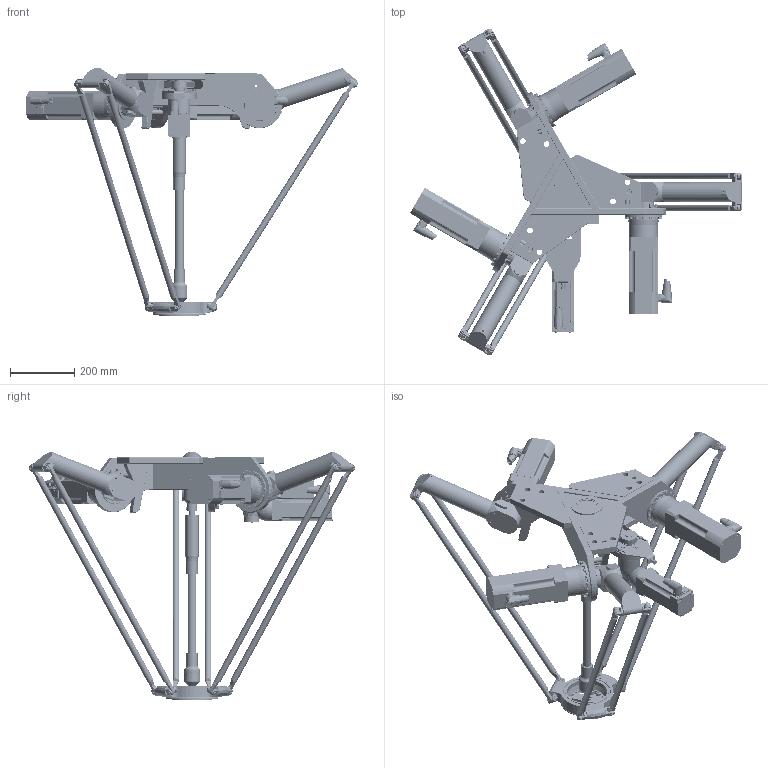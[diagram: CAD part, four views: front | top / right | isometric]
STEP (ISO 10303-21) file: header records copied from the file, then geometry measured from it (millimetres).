
FILE_DESCRIPTION (( 'STEP AP214' ), '1' );
FILE_NAME ('DR4090C-AX006.STEP', '2020-04-07T07:25:11', ( '' ), ( '' ), 'SwSTEP 2.0', 'SolidWorks 2017', '' );
FILE_SCHEMA (( 'AUTOMOTIVE_DESIGN' ));
Length unit declared in the file: millimetre
Products named in the file (4): DR4090C-AX006; DR4090C-AX006_3D_ohne_Motor; 8LSA35_DB060S200_3_5; 8LSAA2_D9045S200_3_1
Assembly tree (5 placements, depth 2):
  DR4090C-AX006
    DR4090C-AX006_3D_ohne_Motor
    8LSAA2_D9045S200_3_1
    8LSA35_DB060S200_3_5  x3
Bounding box: 1033.96 x 1018.15 x 772.29 mm (x, y, z)
Volume: 20661028 mm3; surface area: 2362783.5 mm2
Topology: 32 solids, 64 shells, 4970 faces, 11733 edges, 7485 vertices
Faces by surface type: plane 2695, cylinder 1439, cone 557, bspline 276, torus 3
Full cylindrical faces by diameter (mm): 1 x16, 3 x2, 3.242 x8, 3.3 x3, 3.459 x12, 4 x1, 4.13 x1, 4.3 x3, 4.5 x12, 4.917 x11, 5 x48, 5.3 x1, 5.5 x26, 5.8 x4, 6 x73, 6.5 x6, 6.647 x9, 7 x12, 7.318 x12, 7.5 x48, 8 x40, 8.5 x102, 10 x45, 11.4 x1, 12 x26, 14 x4, 14.5 x1, 15 x3, 16 x26, 17.5 x9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
Entity records: 179156 total; most frequent: CARTESIAN_POINT 58437, DIRECTION 16688, ORIENTED_EDGE 15678, EDGE_CURVE 7839, AXIS2_PLACEMENT_3D 6254, EDGE_LOOP 5446, VERTEX_POINT 5429, FACE_OUTER_BOUND 4588
